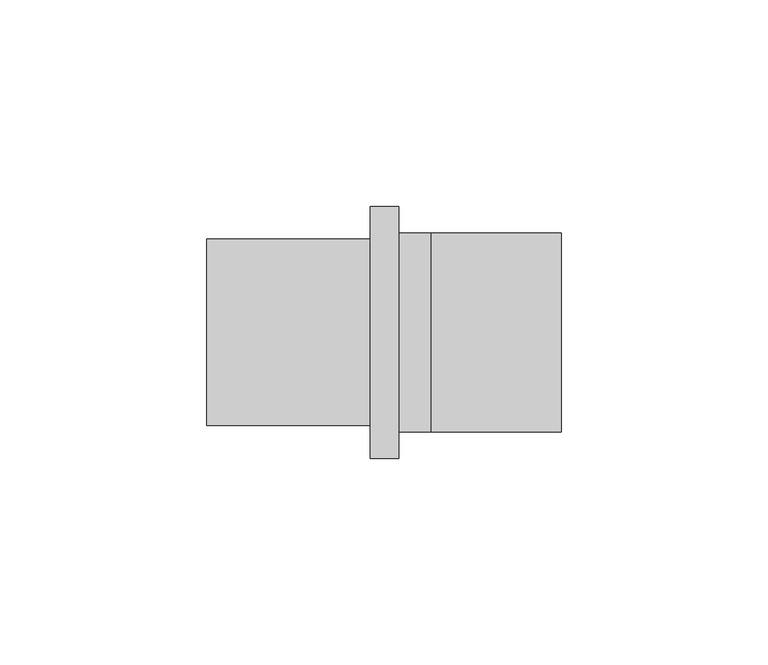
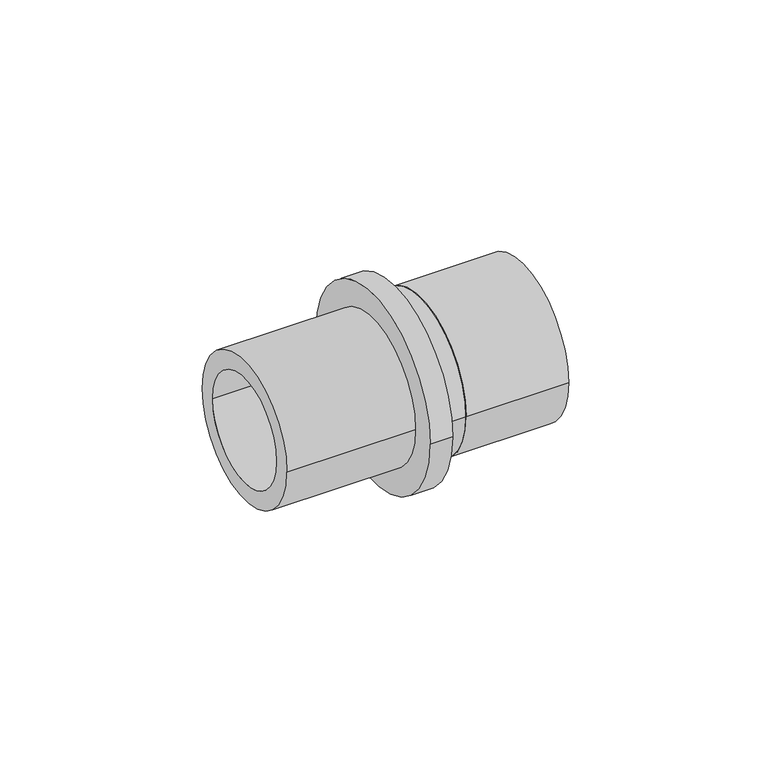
"""IFC4 building model written with IfcOpenShell, lengths in millimetres: pipe fitting geometry, Adapter with welding end : A welding LX."""

from ifc_helpers import new_model, si_unit, point, frame, origin, origin_2d, place, context, project, spatial, polyline, circle_curve, trimmed, segment, composite_curve, outline, extrude, source, transform, mapped, element, save
from ifc_brep_helpers import plane_surface, cylinder_surface, revolved_surface, advanced_brep


def pipe_fitting_7715747c(model_context):
    return source(origin(), model_context, "Body", "SolidModel", [
        extrude(outline(composite_curve([segment(trimmed(circle_curve(origin_2d(), 24.1), [point((-24.1, 0.0))], [point((24.1, 0.0))], False, "CARTESIAN"), True, "CONTINUOUS"), segment(trimmed(circle_curve(origin_2d(), 24.1), [point((24.1, 0.0))], [point((-24.1, 0.0))], False, "CARTESIAN"), True, "CONTINUOUS")], self_intersect=False), holes=[composite_curve([segment(trimmed(circle_curve(origin_2d(), 21.5), [point((21.5, 0.0))], [point((-21.5, 0.0))], True, "CARTESIAN"), True, "CONTINUOUS"), segment(trimmed(circle_curve(origin_2d(), 21.5), [point((-21.5, 0.0))], [point((21.5, 0.0))], True, "CARTESIAN"), True, "CONTINUOUS")], self_intersect=False)]), frame((0.0, 0.0, 0.0), z_axis=(1.0, 0.0, 0.0), x_axis=(0.0, 1.0, 0.0)), (0.0, 0.0, 1.0), 31.5),
        advanced_brep(
        [(0.0, 24.1, 0.0), (0.0, -24.1, 0.0), (-7.9, -24.1, 0.0), (-7.9, 24.1, 0.0), (-7.9, 21.5, 0.0), (-7.9, -21.5, 0.0), (0.0, -21.5, 0.0), (0.0, 21.5, 0.0), (-54.4, 17.0, 0.0), (-54.4, -17.0, 0.0), (-7.9, -17.0, 0.0), (-7.9, 17.0, 0.0), (-14.8, 22.6, 0.0), (-14.8, -22.6, 0.0), (-54.4, -22.6, 0.0), (-54.4, 22.6, 0.0), (-7.9, 30.5, 0.0), (-7.9, -30.5, 0.0), (-14.8, -30.5, 0.0), (-14.8, 30.5, 0.0)],
        [
            (0, 1, circle_curve(frame((0.0, 0.0, 0.0), z_axis=(-1.0, 0.0, 0.0), x_axis=(0.0, -1.0, 0.0)), 24.1)),
            (1, 2),
            (2, 3, circle_curve(frame((-7.9, 0.0, 0.0), z_axis=(1.0, 0.0, 0.0), x_axis=(0.0, -1.0, 0.0)), 24.1)),
            (3, 0),
            (4, 5, circle_curve(frame((-7.9, 0.0, 0.0), z_axis=(-1.0, 0.0, 0.0), x_axis=(0.0, -1.0, 0.0)), 21.5)),
            (5, 6),
            (6, 7, circle_curve(frame((0.0, 0.0, 0.0), z_axis=(1.0, 0.0, 0.0), x_axis=(0.0, -1.0, 0.0)), 21.5)),
            (7, 4),
            (8, 9, circle_curve(frame((-54.4, 0.0, 0.0), z_axis=(-1.0, 0.0, 0.0), x_axis=(0.0, -1.0, 0.0)), 17.0)),
            (9, 10),
            (10, 11, circle_curve(frame((-7.9, 0.0, 0.0), z_axis=(1.0, 0.0, 0.0), x_axis=(0.0, -1.0, 0.0)), 17.0)),
            (11, 8),
            (12, 13, circle_curve(frame((-14.8, 0.0, 0.0), z_axis=(-1.0, 0.0, 0.0), x_axis=(0.0, -1.0, 0.0)), 22.6)),
            (13, 14),
            (14, 15, circle_curve(frame((-54.4, 0.0, 0.0), z_axis=(1.0, 0.0, 0.0), x_axis=(0.0, -1.0, 0.0)), 22.6)),
            (15, 12),
            (16, 17, circle_curve(frame((-7.9, 0.0, 0.0), z_axis=(-1.0, 0.0, 0.0), x_axis=(0.0, -1.0, 0.0)), 30.5)),
            (17, 18),
            (18, 19, circle_curve(frame((-14.8, 0.0, 0.0), z_axis=(1.0, 0.0, 0.0), x_axis=(0.0, -1.0, 0.0)), 30.5)),
            (19, 16),
            (16, 17, circle_curve(frame((-7.9, 0.0, 0.0), z_axis=(1.0, 0.0, 0.0), x_axis=(0.0, 1.0, 0.0)), 30.5)),
            (2, 3, circle_curve(frame((-7.9, 0.0, 0.0), z_axis=(-1.0, 0.0, 0.0), x_axis=(0.0, 1.0, 0.0)), 24.1)),
            (1, 0, circle_curve(frame((0.0, 0.0, 0.0), z_axis=(-1.0, 0.0, 0.0), x_axis=(0.0, 1.0, 0.0)), 24.1)),
            (6, 7, circle_curve(frame((0.0, 0.0, 0.0), z_axis=(-1.0, 0.0, 0.0), x_axis=(0.0, 1.0, 0.0)), 21.5)),
            (5, 4, circle_curve(frame((-7.9, 0.0, 0.0), z_axis=(-1.0, 0.0, 0.0), x_axis=(0.0, 1.0, 0.0)), 21.5)),
            (10, 11, circle_curve(frame((-7.9, 0.0, 0.0), z_axis=(-1.0, 0.0, 0.0), x_axis=(0.0, 1.0, 0.0)), 17.0)),
            (9, 8, circle_curve(frame((-54.4, 0.0, 0.0), z_axis=(-1.0, 0.0, 0.0), x_axis=(0.0, 1.0, 0.0)), 17.0)),
            (14, 15, circle_curve(frame((-54.4, 0.0, 0.0), z_axis=(-1.0, 0.0, 0.0), x_axis=(0.0, 1.0, 0.0)), 22.6)),
            (13, 12, circle_curve(frame((-14.8, 0.0, 0.0), z_axis=(-1.0, 0.0, 0.0), x_axis=(0.0, 1.0, 0.0)), 22.6)),
            (18, 19, circle_curve(frame((-14.8, 0.0, 0.0), z_axis=(-1.0, 0.0, 0.0), x_axis=(0.0, 1.0, 0.0)), 30.5)),
        ],
        [
            cylinder_surface(frame((0.0, 0.0, 0.0), z_axis=(1.0, 0.0, 0.0), x_axis=(0.0, -1.0, 0.0)), 24.1),
            revolved_surface(polyline([(0.0, -21.5, 0.0), (-7.9, -21.5, 0.0)]), (0.0, 0.0, 0.0), (1.0, 0.0, 0.0)),
            revolved_surface(polyline([(-7.9, -17.0, 0.0), (-54.4, -17.0, 0.0)]), (0.0, 0.0, 0.0), (1.0, 0.0, 0.0)),
            cylinder_surface(frame((0.0, 0.0, 0.0), z_axis=(1.0, 0.0, 0.0), x_axis=(0.0, -1.0, 0.0)), 22.6),
            cylinder_surface(frame((0.0, 0.0, 0.0), z_axis=(1.0, 0.0, 0.0), x_axis=(0.0, -1.0, 0.0)), 30.5),
            plane_surface(frame((-7.9, 0.0, 0.0), z_axis=(1.0, 0.0, 0.0), x_axis=(0.0, 1.0, 0.0))),
            cylinder_surface(frame((0.0, 0.0, 0.0), z_axis=(1.0, 0.0, 0.0), x_axis=(0.0, 1.0, 0.0)), 24.1),
            plane_surface(frame((0.0, 0.0, 0.0), z_axis=(1.0, 0.0, 0.0), x_axis=(0.0, 1.0, 0.0))),
            revolved_surface(polyline([(0.0, 21.5, 0.0), (-7.9, 21.5, 0.0)]), (0.0, 0.0, 0.0), (1.0, 0.0, 0.0)),
            revolved_surface(polyline([(-7.9, 17.0, 0.0), (-54.4, 17.0, 0.0)]), (0.0, 0.0, 0.0), (1.0, 0.0, 0.0)),
            plane_surface(frame((-54.4, 0.0, 0.0), z_axis=(-1.0, 0.0, 0.0), x_axis=(0.0, 1.0, 0.0))),
            cylinder_surface(frame((0.0, 0.0, 0.0), z_axis=(1.0, 0.0, 0.0), x_axis=(0.0, 1.0, 0.0)), 22.6),
            plane_surface(frame((-14.8, 0.0, 0.0), z_axis=(-1.0, 0.0, 0.0), x_axis=(0.0, 1.0, 0.0))),
            cylinder_surface(frame((0.0, 0.0, 0.0), z_axis=(1.0, 0.0, 0.0), x_axis=(0.0, 1.0, 0.0)), 30.5),
        ],
        [
            (0, [[1, 2, 3, 4]]),
            (1, [[5, 6, 7, 8]]),
            (2, [[9, 10, 11, 12]]),
            (3, [[13, 14, 15, 16]]),
            (4, [[17, 18, 19, 20]]),
            (5, [[21, -17], [22, -3]]),
            (6, [[23, -4, -22, -2]]),
            (7, [[-23, -1], [24, -7]]),
            (8, [[25, -8, -24, -6]]),
            (5, [[-25, -5], [26, -11]]),
            (9, [[27, -12, -26, -10]]),
            (10, [[28, -15], [-27, -9]]),
            (11, [[29, -16, -28, -14]]),
            (12, [[30, -19], [-29, -13]]),
            (13, [[-21, -20, -30, -18]]),
        ],
    ),
    ])


if __name__ == "__main__":
    model = new_model("IFC4")
    model_context = context("Model", 3, world=origin())
    ifc_project = project(units=[si_unit("LENGTHUNIT", "METRE", prefix="MILLI")], contexts=[model_context])
    site = spatial("IfcSite", under=ifc_project)
    building = spatial("IfcBuilding", under=site)
    placement = place(None, origin())
    pipe_fitting_shape = pipe_fitting_7715747c(model_context)
    element("IfcPipeFitting", 1, ObjectType="Adapter with welding end : A welding LX", at=placement, inside=building, context=model_context, shape_type="MappedRepresentation", body=[
        mapped(pipe_fitting_shape, transform((0.0, 0.0, 0.0), x_axis=(1.0, 0.0, 0.0), y_axis=(0.0, 1.0, 0.0), z_axis=(0.0, 0.0, 1.0))),
    ])
    save(model, "model.ifc")
